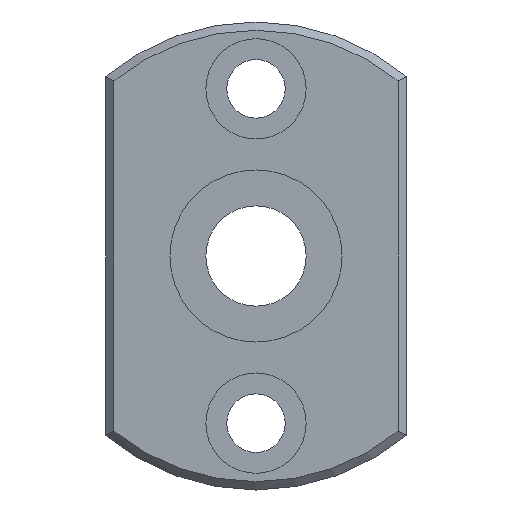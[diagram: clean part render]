
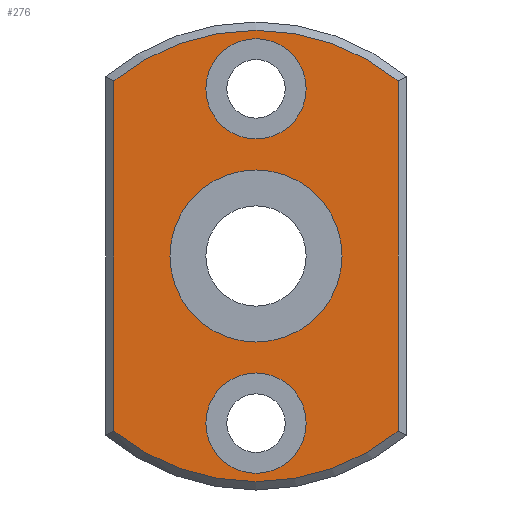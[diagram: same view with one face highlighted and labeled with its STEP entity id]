
A CAD part, left-side view. The second image highlights one B-rep face of the part: STEP entity #276.
In plain terms, the highlighted planar face has unit normal (-1, 0, 0).
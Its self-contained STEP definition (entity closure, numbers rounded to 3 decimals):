
#59=CARTESIAN_POINT('',(0.0,8.5,-10.488));
#60=VERTEX_POINT('',#59);
#68=CARTESIAN_POINT('',(0.0,8.5,10.488));
#69=VERTEX_POINT('',#68);
#70=CARTESIAN_POINT('',(0.0,8.5,-10.488));
#71=DIRECTION('',(0.0,0.0,1.0));
#72=VECTOR('',#71,20.976);
#73=LINE('',#70,#72);
#74=EDGE_CURVE('',#60,#69,#73,.T.);
#101=CARTESIAN_POINT('',(0.0,-8.5,10.488));
#102=VERTEX_POINT('',#101);
#103=CARTESIAN_POINT('',(0.0,0.0,0.0));
#104=DIRECTION('',(1.0,0.0,0.0));
#105=DIRECTION('',(0.0,0.0,1.0));
#106=AXIS2_PLACEMENT_3D('',#103,#104,#105);
#107=CIRCLE('',#106,13.5);
#108=EDGE_CURVE('',#69,#102,#107,.T.);
#134=CARTESIAN_POINT('',(0.0,-8.5,-10.488));
#135=VERTEX_POINT('',#134);
#136=CARTESIAN_POINT('',(0.0,-8.5,10.488));
#137=DIRECTION('',(0.0,0.0,-1.0));
#138=VECTOR('',#137,20.976);
#139=LINE('',#136,#138);
#140=EDGE_CURVE('',#102,#135,#139,.T.);
#165=CARTESIAN_POINT('',(0.0,0.0,0.0));
#166=DIRECTION('',(1.0,0.0,0.0));
#167=DIRECTION('',(0.0,0.0,-1.0));
#168=AXIS2_PLACEMENT_3D('',#165,#166,#167);
#169=CIRCLE('',#168,13.5);
#170=EDGE_CURVE('',#135,#60,#169,.T.);
#232=CARTESIAN_POINT('',(0.0,0.0,5.575));
#233=DIRECTION('',(-1.0,0.0,0.0));
#234=DIRECTION('',(0.0,0.0,1.0));
#235=AXIS2_PLACEMENT_3D('',#232,#233,#234);
#236=PLANE('',#235);
#237=ORIENTED_EDGE('',*,*,#74,.F.);
#238=ORIENTED_EDGE('',*,*,#170,.F.);
#239=ORIENTED_EDGE('',*,*,#140,.F.);
#240=ORIENTED_EDGE('',*,*,#108,.F.);
#241=EDGE_LOOP('',(#237,#238,#239,#240));
#242=FACE_OUTER_BOUND('',#241,.T.);
#243=CARTESIAN_POINT('',(0.0,0.0,5.15));
#244=VERTEX_POINT('',#243);
#245=CARTESIAN_POINT('',(0.0,0.0,0.0));
#246=DIRECTION('',(-1.0,0.0,0.0));
#247=DIRECTION('',(0.0,0.0,1.0));
#248=AXIS2_PLACEMENT_3D('',#245,#246,#247);
#249=CIRCLE('',#248,5.15);
#250=EDGE_CURVE('',#244,#244,#249,.T.);
#251=ORIENTED_EDGE('',*,*,#250,.F.);
#252=EDGE_LOOP('',(#251));
#253=FACE_BOUND('',#252,.T.);
#254=CARTESIAN_POINT('',(0.0,3.,-10.0));
#255=VERTEX_POINT('',#254);
#256=CARTESIAN_POINT('',(0.0,0.,-10.0));
#257=DIRECTION('',(1.0,0.0,0.0));
#258=DIRECTION('',(0.0,1.0,0.0));
#259=AXIS2_PLACEMENT_3D('',#256,#257,#258);
#260=CIRCLE('',#259,3.);
#261=EDGE_CURVE('',#255,#255,#260,.T.);
#262=ORIENTED_EDGE('',*,*,#261,.T.);
#263=EDGE_LOOP('',(#262));
#264=FACE_BOUND('',#263,.T.);
#265=CARTESIAN_POINT('',(0.0,3.,10.0));
#266=VERTEX_POINT('',#265);
#267=CARTESIAN_POINT('',(0.0,0.,10.0));
#268=DIRECTION('',(1.0,0.0,0.0));
#269=DIRECTION('',(0.0,1.0,0.0));
#270=AXIS2_PLACEMENT_3D('',#267,#268,#269);
#271=CIRCLE('',#270,3.);
#272=EDGE_CURVE('',#266,#266,#271,.T.);
#273=ORIENTED_EDGE('',*,*,#272,.T.);
#274=EDGE_LOOP('',(#273));
#275=FACE_BOUND('',#274,.T.);
#276=ADVANCED_FACE('',(#242,#253,#264,#275),#236,.T.);
